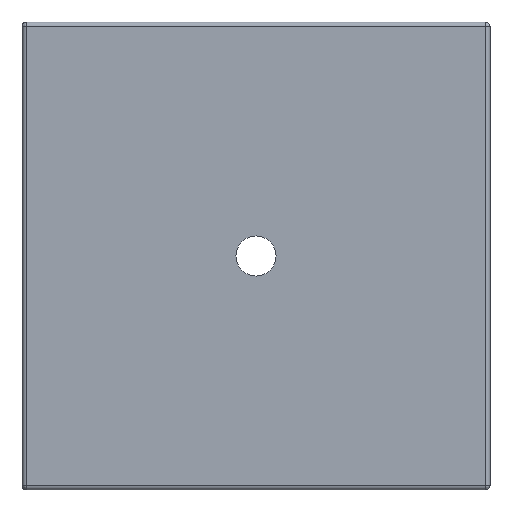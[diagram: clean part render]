
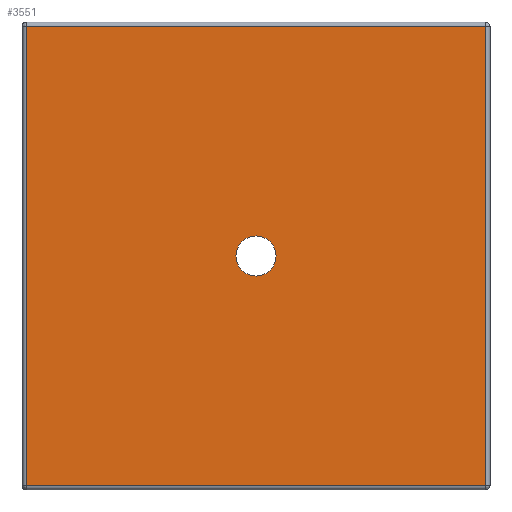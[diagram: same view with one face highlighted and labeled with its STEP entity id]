
A CAD part, left-side view. The second image highlights one B-rep face of the part: STEP entity #3551.
In plain terms, the highlighted planar face has unit normal (-1, 0, 0).
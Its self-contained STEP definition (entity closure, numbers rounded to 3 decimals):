
#132 = LINE ( 'NONE', #3963, #5139 ) ;
#197 = DIRECTION ( 'NONE',  ( 0., 0., 1. ) ) ;
#233 = ORIENTED_EDGE ( 'NONE', *, *, #1621, .F. ) ;
#316 = VERTEX_POINT ( 'NONE', #349 ) ;
#349 = CARTESIAN_POINT ( 'NONE',  ( 2199.177, -681.094, -0.2 ) ) ;
#427 = EDGE_LOOP ( 'NONE', ( #4091, #3717, #233, #5088 ) ) ;
#479 = ORIENTED_EDGE ( 'NONE', *, *, #2081, .F. ) ;
#594 = CARTESIAN_POINT ( 'NONE',  ( 2199.177, -660.494, -20.8 ) ) ;
#767 = EDGE_CURVE ( 'NONE', #316, #1241, #3892, .T. ) ;
#803 = DIRECTION ( 'NONE',  ( 0., 1., 0. ) ) ;
#1241 = VERTEX_POINT ( 'NONE', #5065 ) ;
#1267 = VERTEX_POINT ( 'NONE', #4276 ) ;
#1396 = DIRECTION ( 'NONE',  ( 0., 0., -1. ) ) ;
#1573 = VERTEX_POINT ( 'NONE', #4404 ) ;
#1621 = EDGE_CURVE ( 'NONE', #1241, #4473, #4260, .T. ) ;
#1803 = CARTESIAN_POINT ( 'NONE',  ( 2199.177, -660.494, -21. ) ) ;
#1933 = DIRECTION ( 'NONE',  ( 0., 0., 1. ) ) ;
#1991 = VECTOR ( 'NONE', #803, 1000. ) ;
#2081 = EDGE_CURVE ( 'NONE', #2473, #1573, #3798, .T. ) ;
#2123 = DIRECTION ( 'NONE',  ( 0., 0., -1. ) ) ;
#2176 = LINE ( 'NONE', #1803, #5020 ) ;
#2225 = CARTESIAN_POINT ( 'NONE',  ( 2199.177, -681.294, -21. ) ) ;
#2276 = PLANE ( 'NONE',  #4971 ) ;
#2354 = CIRCLE ( 'NONE', #4137, 0.9 ) ;
#2372 = CARTESIAN_POINT ( 'NONE',  ( 2199.177, -681.294, -20.8 ) ) ;
#2374 = CARTESIAN_POINT ( 'NONE',  ( 2199.177, -670.794, -10.5 ) ) ;
#2473 = VERTEX_POINT ( 'NONE', #4154 ) ;
#2584 = VECTOR ( 'NONE', #2123, 1000. ) ;
#2635 = EDGE_CURVE ( 'NONE', #4473, #1267, #2176, .T. ) ;
#2721 = CARTESIAN_POINT ( 'NONE',  ( 2199.177, -681.094, -21. ) ) ;
#2820 = FACE_OUTER_BOUND ( 'NONE', #427, .T. ) ;
#3380 = EDGE_CURVE ( 'NONE', #1267, #316, #132, .T. ) ;
#3435 = EDGE_LOOP ( 'NONE', ( #479, #4077 ) ) ;
#3551 = ADVANCED_FACE ( 'NONE', ( #4248, #2820 ), #2276, .F. ) ;
#3717 = ORIENTED_EDGE ( 'NONE', *, *, #2635, .F. ) ;
#3798 = CIRCLE ( 'NONE', #4984, 0.9 ) ;
#3839 = DIRECTION ( 'NONE',  ( 1., 0., 0. ) ) ;
#3892 = LINE ( 'NONE', #2721, #2584 ) ;
#3962 = DIRECTION ( 'NONE',  ( -1., 0., 0. ) ) ;
#3963 = CARTESIAN_POINT ( 'NONE',  ( 2199.177, -681.294, -0.2 ) ) ;
#4077 = ORIENTED_EDGE ( 'NONE', *, *, #4578, .F. ) ;
#4091 = ORIENTED_EDGE ( 'NONE', *, *, #3380, .F. ) ;
#4137 = AXIS2_PLACEMENT_3D ( 'NONE', #2374, #4372, #5198 ) ;
#4154 = CARTESIAN_POINT ( 'NONE',  ( 2199.177, -670.794, -9.6 ) ) ;
#4248 = FACE_BOUND ( 'NONE', #3435, .T. ) ;
#4260 = LINE ( 'NONE', #2372, #1991 ) ;
#4276 = CARTESIAN_POINT ( 'NONE',  ( 2199.177, -660.494, -0.2 ) ) ;
#4353 = CARTESIAN_POINT ( 'NONE',  ( 2199.177, -670.794, -10.5 ) ) ;
#4372 = DIRECTION ( 'NONE',  ( -1., 0., 0. ) ) ;
#4404 = CARTESIAN_POINT ( 'NONE',  ( 2199.177, -670.794, -11.4 ) ) ;
#4473 = VERTEX_POINT ( 'NONE', #594 ) ;
#4578 = EDGE_CURVE ( 'NONE', #1573, #2473, #2354, .T. ) ;
#4800 = DIRECTION ( 'NONE',  ( 0., -1., 0. ) ) ;
#4971 = AXIS2_PLACEMENT_3D ( 'NONE', #2225, #3839, #1396 ) ;
#4984 = AXIS2_PLACEMENT_3D ( 'NONE', #4353, #3962, #1933 ) ;
#5020 = VECTOR ( 'NONE', #197, 1000. ) ;
#5065 = CARTESIAN_POINT ( 'NONE',  ( 2199.177, -681.094, -20.8 ) ) ;
#5088 = ORIENTED_EDGE ( 'NONE', *, *, #767, .F. ) ;
#5139 = VECTOR ( 'NONE', #4800, 1000. ) ;
#5198 = DIRECTION ( 'NONE',  ( 0., 0., 1. ) ) ;
